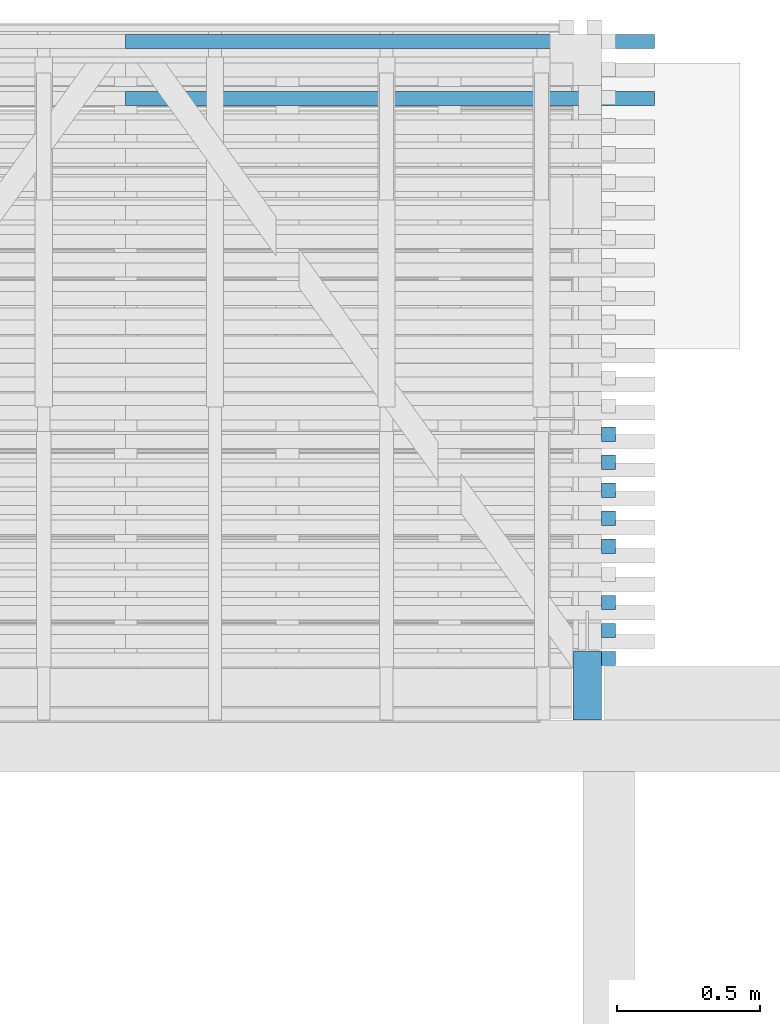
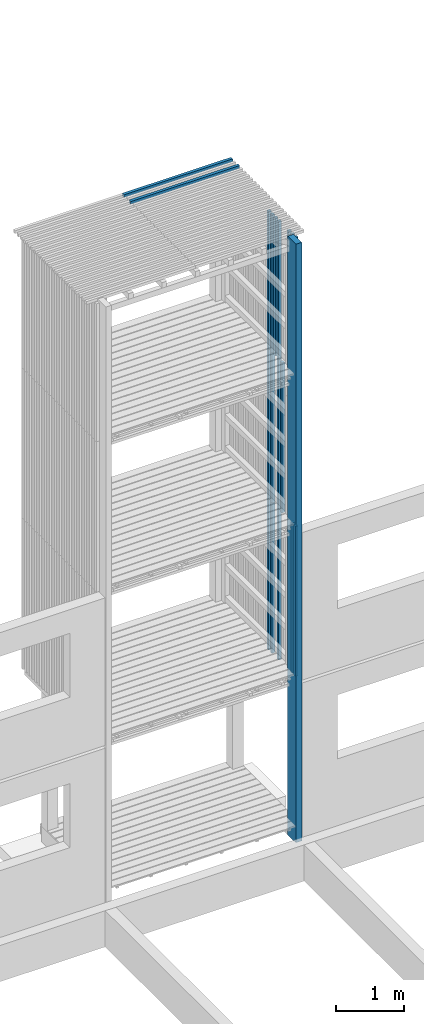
# One storey, part 52 of 182: 20 beams.
"""IFC2X3 building model written with IfcOpenShell, lengths in metres."""

from ifc_helpers import new_model, si_unit, frame, origin, place, context, project, spatial, faceted_brep, element, save


model = new_model("IFC2X3")

# Units and contexts
model_context = context("Model", 3, precision=1e-06, world=origin())
ifc_project = project(units=[si_unit("LENGTHUNIT", "METRE"), si_unit("PLANEANGLEUNIT", "RADIAN")], contexts=[model_context])

# Site, building, storey
site = spatial("IfcSite", under=ifc_project, CompositionType="ELEMENT")
building = spatial("IfcBuilding", under=site, CompositionType="ELEMENT")
storey = spatial("IfcBuildingStorey", under=building, Name="vs", CompositionType="ELEMENT", Elevation=-0.85)

# Beams
placement = place(None, origin())
beam_1_placement = place(placement, frame((16.67919731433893, 10.881441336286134, 2.575000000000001), z_axis=(-1.0, 0.0, 0.0), x_axis=(0.0, 0.0, 1.0)))
element("IfcBeam", 1, at=beam_1_placement, inside=storey, Name="Bardage", context=model_context, shape_type="Brep", body=[
    faceted_brep([(0.0, -0.024999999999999, 0.024999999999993), (0.0, 0.025000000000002, 0.024999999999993), (0.0, 0.025000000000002, -0.025000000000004), (0.0, -0.024999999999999, -0.025000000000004), (2.699961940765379, 0.025000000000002, -0.025000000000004), (2.699961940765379, 0.025000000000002, 0.024999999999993), (2.699961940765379, -0.024999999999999, 0.024999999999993), (2.699961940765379, -0.024999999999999, -0.025000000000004), (0.0, -0.024999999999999, -0.025000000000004), (0.0, 0.025000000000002, -0.025000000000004), (2.699961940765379, 0.025000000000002, -0.025000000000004), (2.699961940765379, -0.024999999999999, -0.025000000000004), (2.699961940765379, 0.025000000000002, -0.025000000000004), (0.0, 0.025000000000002, -0.025000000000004), (0.0, 0.025000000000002, 0.024999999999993), (2.699961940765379, 0.025000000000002, 0.024999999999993), (2.699961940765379, 0.025000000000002, 0.024999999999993), (0.0, 0.025000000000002, 0.024999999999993), (0.0, -0.024999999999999, 0.024999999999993), (2.699961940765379, -0.024999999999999, 0.024999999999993), (2.699961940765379, -0.024999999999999, 0.024999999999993), (0.0, -0.024999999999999, 0.024999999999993), (0.0, -0.024999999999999, -0.025000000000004), (2.699961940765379, -0.024999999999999, -0.025000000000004)], [[[0, 1, 2, 3]], [[4, 5, 6, 7]], [[8, 9, 10, 11]], [[12, 13, 14, 15]], [[16, 17, 18, 19]], [[20, 21, 22, 23]]]),
])
beam_2_placement = place(placement, frame((16.67919731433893, 10.881441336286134, 7.974999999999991), z_axis=(-1.0, 0.0, 0.0), x_axis=(0.0, 0.0, 1.0)))
element("IfcBeam", 2, at=beam_2_placement, inside=storey, Name="Bardage", context=model_context, shape_type="Brep", body=[
    faceted_brep([(2.479999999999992, -0.024999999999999, 0.024999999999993), (2.479999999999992, -0.024999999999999, -0.025000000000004), (2.479999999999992, 0.025000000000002, -0.025000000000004), (2.479999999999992, 0.025000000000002, 0.024999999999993), (0.0, 0.025000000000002, 0.024999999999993), (0.0, -0.024999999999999, 0.024999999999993), (2.479999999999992, -0.024999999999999, 0.024999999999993), (2.479999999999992, 0.025000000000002, 0.024999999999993), (0.0, -0.024999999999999, 0.024999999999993), (0.0, 0.025000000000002, 0.024999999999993), (0.0, 0.025000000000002, -0.025000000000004), (0.0, -0.024999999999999, -0.025000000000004), (0.0, 0.025000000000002, -0.025000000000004), (0.0, 0.025000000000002, 0.024999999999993), (2.479999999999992, 0.025000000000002, 0.024999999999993), (2.479999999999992, 0.025000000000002, -0.025000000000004), (0.0, -0.024999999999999, -0.025000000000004), (0.0, 0.025000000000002, -0.025000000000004), (2.479999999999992, 0.025000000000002, -0.025000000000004), (2.479999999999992, -0.024999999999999, -0.025000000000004), (2.479999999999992, -0.024999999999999, 0.024999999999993), (0.0, -0.024999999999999, 0.024999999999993), (0.0, -0.024999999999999, -0.025000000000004), (2.479999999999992, -0.024999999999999, -0.025000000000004)], [[[0, 1, 2, 3]], [[4, 5, 6, 7]], [[8, 9, 10, 11]], [[12, 13, 14, 15]], [[16, 17, 18, 19]], [[20, 21, 22, 23]]]),
])
beam_3_placement = place(placement, frame((16.67919731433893, 10.685077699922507, 2.575000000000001), z_axis=(-1.0, 0.0, 0.0), x_axis=(0.0, 0.0, 1.0)))
element("IfcBeam", 3, at=beam_3_placement, inside=storey, Name="Bardage", context=model_context, shape_type="Brep", body=[
    faceted_brep([(0.0, -0.025000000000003, 0.024999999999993), (0.0, 0.024999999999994, 0.024999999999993), (0.0, 0.024999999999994, -0.025000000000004), (0.0, -0.025000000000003, -0.025000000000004), (2.699961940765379, 0.024999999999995, -0.025000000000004), (2.699961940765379, 0.024999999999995, 0.024999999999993), (2.699961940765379, -0.025000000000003, 0.024999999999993), (2.699961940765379, -0.025000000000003, -0.025000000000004), (0.0, -0.025000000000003, -0.025000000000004), (0.0, 0.024999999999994, -0.025000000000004), (2.699961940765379, 0.024999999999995, -0.025000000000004), (2.699961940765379, -0.025000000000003, -0.025000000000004), (2.699961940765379, 0.024999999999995, -0.025000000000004), (0.0, 0.024999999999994, -0.025000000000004), (0.0, 0.024999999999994, 0.024999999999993), (2.699961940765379, 0.024999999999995, 0.024999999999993), (2.699961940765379, 0.024999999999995, 0.024999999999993), (0.0, 0.024999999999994, 0.024999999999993), (0.0, -0.025000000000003, 0.024999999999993), (2.699961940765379, -0.025000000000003, 0.024999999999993), (2.699961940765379, -0.025000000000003, 0.024999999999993), (0.0, -0.025000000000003, 0.024999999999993), (0.0, -0.025000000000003, -0.025000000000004), (2.699961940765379, -0.025000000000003, -0.025000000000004)], [[[0, 1, 2, 3]], [[4, 5, 6, 7]], [[8, 9, 10, 11]], [[12, 13, 14, 15]], [[16, 17, 18, 19]], [[20, 21, 22, 23]]]),
])
beam_4_placement = place(placement, frame((16.67919731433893, 11.175986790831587, 7.974999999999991), z_axis=(-1.0, 0.0, 0.0), x_axis=(0.0, 0.0, 1.0)))
element("IfcBeam", 4, at=beam_4_placement, inside=storey, Name="Bardage", context=model_context, shape_type="Brep", body=[
    faceted_brep([(2.479999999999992, -0.025000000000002, 0.024999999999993), (2.479999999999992, -0.025000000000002, -0.025000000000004), (2.479999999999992, 0.024999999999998, -0.025000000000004), (2.479999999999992, 0.024999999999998, 0.024999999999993), (0.0, 0.024999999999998, 0.024999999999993), (0.0, -0.025000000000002, 0.024999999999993), (2.479999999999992, -0.025000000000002, 0.024999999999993), (2.479999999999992, 0.024999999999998, 0.024999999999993), (0.0, -0.025000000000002, 0.024999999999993), (0.0, 0.024999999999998, 0.024999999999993), (0.0, 0.024999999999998, -0.025000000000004), (0.0, -0.025000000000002, -0.025000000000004), (0.0, 0.024999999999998, -0.025000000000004), (0.0, 0.024999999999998, 0.024999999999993), (2.479999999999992, 0.024999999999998, 0.024999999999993), (2.479999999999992, 0.024999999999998, -0.025000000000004), (0.0, -0.025000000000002, -0.025000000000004), (0.0, 0.024999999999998, -0.025000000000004), (2.479999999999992, 0.024999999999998, -0.025000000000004), (2.479999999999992, -0.025000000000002, -0.025000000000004), (2.479999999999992, -0.025000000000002, 0.024999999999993), (0.0, -0.025000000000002, 0.024999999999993), (0.0, -0.025000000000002, -0.025000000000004), (2.479999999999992, -0.025000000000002, -0.025000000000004)], [[[0, 1, 2, 3]], [[4, 5, 6, 7]], [[8, 9, 10, 11]], [[12, 13, 14, 15]], [[16, 17, 18, 19]], [[20, 21, 22, 23]]]),
])
beam_5_placement = place(placement, frame((16.67919731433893, 10.78325951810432, 7.974999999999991), z_axis=(-1.0, 0.0, 0.0), x_axis=(0.0, 0.0, 1.0)))
element("IfcBeam", 5, at=beam_5_placement, inside=storey, Name="Bardage", context=model_context, shape_type="Brep", body=[
    faceted_brep([(2.479999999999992, -0.025000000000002, 0.024999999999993), (2.479999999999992, -0.025000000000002, -0.025000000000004), (2.479999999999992, 0.024999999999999, -0.025000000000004), (2.479999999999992, 0.024999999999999, 0.024999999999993), (0.0, 0.024999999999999, 0.024999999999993), (0.0, -0.025000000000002, 0.024999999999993), (2.479999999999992, -0.025000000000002, 0.024999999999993), (2.479999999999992, 0.024999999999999, 0.024999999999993), (0.0, -0.025000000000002, 0.024999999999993), (0.0, 0.024999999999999, 0.024999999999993), (0.0, 0.024999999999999, -0.025000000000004), (0.0, -0.025000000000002, -0.025000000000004), (0.0, 0.024999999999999, -0.025000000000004), (0.0, 0.024999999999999, 0.024999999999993), (2.479999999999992, 0.024999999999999, 0.024999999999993), (2.479999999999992, 0.024999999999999, -0.025000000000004), (0.0, -0.025000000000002, -0.025000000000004), (0.0, 0.024999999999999, -0.025000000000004), (2.479999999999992, 0.024999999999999, -0.025000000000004), (2.479999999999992, -0.025000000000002, -0.025000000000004), (2.479999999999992, -0.025000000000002, 0.024999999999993), (0.0, -0.025000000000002, 0.024999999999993), (0.0, -0.025000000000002, -0.025000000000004), (2.479999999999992, -0.025000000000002, -0.025000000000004)], [[[0, 1, 2, 3]], [[4, 5, 6, 7]], [[8, 9, 10, 11]], [[12, 13, 14, 15]], [[16, 17, 18, 19]], [[20, 21, 22, 23]]]),
])
beam_6_placement = place(placement, frame((16.67919731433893, 11.37235042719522, 5.274999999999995), z_axis=(-1.0, 0.0, 0.0), x_axis=(0.0, 0.0, 1.0)))
element("IfcBeam", 6, at=beam_6_placement, inside=storey, Name="Bardage", context=model_context, shape_type="Brep", body=[
    faceted_brep([(1e-15, -0.024999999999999, 0.024999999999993), (1e-15, 0.024999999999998, 0.024999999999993), (1e-15, 0.024999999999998, -0.025000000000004), (1e-15, -0.024999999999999, -0.025000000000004), (2.699999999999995, -0.024999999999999, -0.025000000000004), (2.699999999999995, 0.024999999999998, -0.025000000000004), (2.699999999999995, 0.024999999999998, 0.024999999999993), (2.699999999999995, -0.024999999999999, 0.024999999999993), (1e-15, -0.024999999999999, 0.024999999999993), (1e-15, -0.024999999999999, -0.025000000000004), (2.699999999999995, -0.024999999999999, -0.025000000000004), (2.699999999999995, -0.024999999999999, 0.024999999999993), (2.699999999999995, -0.024999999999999, -0.025000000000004), (1e-15, -0.024999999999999, -0.025000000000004), (1e-15, 0.024999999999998, -0.025000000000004), (2.699999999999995, 0.024999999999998, -0.025000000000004), (2.699999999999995, 0.024999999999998, -0.025000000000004), (1e-15, 0.024999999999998, -0.025000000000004), (1e-15, 0.024999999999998, 0.024999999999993), (2.699999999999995, 0.024999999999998, 0.024999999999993), (2.699999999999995, 0.024999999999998, 0.024999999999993), (1e-15, 0.024999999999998, 0.024999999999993), (1e-15, -0.024999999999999, 0.024999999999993), (2.699999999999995, -0.024999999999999, 0.024999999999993)], [[[0, 1, 2, 3]], [[4, 5, 6, 7]], [[8, 9, 10, 11]], [[12, 13, 14, 15]], [[16, 17, 18, 19]], [[20, 21, 22, 23]]]),
])
beam_7_placement = place(placement, frame((16.67919731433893, 10.78325951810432, 2.575000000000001), z_axis=(-1.0, 0.0, 0.0), x_axis=(0.0, 0.0, 1.0)))
element("IfcBeam", 7, at=beam_7_placement, inside=storey, Name="Bardage", context=model_context, shape_type="Brep", body=[
    faceted_brep([(0.0, -0.025000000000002, 0.024999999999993), (0.0, 0.024999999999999, 0.024999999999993), (0.0, 0.024999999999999, -0.025000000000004), (0.0, -0.025000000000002, -0.025000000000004), (2.699961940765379, 0.024999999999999, -0.025000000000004), (2.699961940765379, 0.024999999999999, 0.024999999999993), (2.699961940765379, -0.025000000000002, 0.024999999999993), (2.699961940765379, -0.025000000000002, -0.025000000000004), (0.0, -0.025000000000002, -0.025000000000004), (0.0, 0.024999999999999, -0.025000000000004), (2.699961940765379, 0.024999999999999, -0.025000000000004), (2.699961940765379, -0.025000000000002, -0.025000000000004), (2.699961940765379, 0.024999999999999, -0.025000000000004), (0.0, 0.024999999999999, -0.025000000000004), (0.0, 0.024999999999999, 0.024999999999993), (2.699961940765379, 0.024999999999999, 0.024999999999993), (2.699961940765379, 0.024999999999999, 0.024999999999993), (0.0, 0.024999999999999, 0.024999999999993), (0.0, -0.025000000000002, 0.024999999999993), (2.699961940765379, -0.025000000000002, 0.024999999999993), (2.699961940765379, -0.025000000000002, 0.024999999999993), (0.0, -0.025000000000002, 0.024999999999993), (0.0, -0.025000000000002, -0.025000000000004), (2.699961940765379, -0.025000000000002, -0.025000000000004)], [[[0, 1, 2, 3]], [[4, 5, 6, 7]], [[8, 9, 10, 11]], [[12, 13, 14, 15]], [[16, 17, 18, 19]], [[20, 21, 22, 23]]]),
])
beam_8_placement = place(placement, frame((16.67919731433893, 11.37235042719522, 7.974999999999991), z_axis=(-1.0, 0.0, 0.0), x_axis=(0.0, 0.0, 1.0)))
element("IfcBeam", 8, at=beam_8_placement, inside=storey, Name="Bardage", context=model_context, shape_type="Brep", body=[
    faceted_brep([(2.479999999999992, -0.024999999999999, 0.024999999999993), (2.479999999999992, -0.024999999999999, -0.025000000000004), (2.479999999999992, 0.024999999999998, -0.025000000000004), (2.479999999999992, 0.024999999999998, 0.024999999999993), (0.0, 0.024999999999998, 0.024999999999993), (0.0, -0.024999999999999, 0.024999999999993), (2.479999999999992, -0.024999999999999, 0.024999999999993), (2.479999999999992, 0.024999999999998, 0.024999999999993), (0.0, -0.024999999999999, 0.024999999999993), (0.0, 0.024999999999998, 0.024999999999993), (0.0, 0.024999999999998, -0.025000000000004), (0.0, -0.024999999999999, -0.025000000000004), (0.0, 0.024999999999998, -0.025000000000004), (0.0, 0.024999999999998, 0.024999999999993), (2.479999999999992, 0.024999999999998, 0.024999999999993), (2.479999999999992, 0.024999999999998, -0.025000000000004), (0.0, -0.024999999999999, -0.025000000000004), (0.0, 0.024999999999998, -0.025000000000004), (2.479999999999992, 0.024999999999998, -0.025000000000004), (2.479999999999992, -0.024999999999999, -0.025000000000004), (2.479999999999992, -0.024999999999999, 0.024999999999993), (0.0, -0.024999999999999, 0.024999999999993), (0.0, -0.024999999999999, -0.025000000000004), (2.479999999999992, -0.024999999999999, -0.025000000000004)], [[[0, 1, 2, 3]], [[4, 5, 6, 7]], [[8, 9, 10, 11]], [[12, 13, 14, 15]], [[16, 17, 18, 19]], [[20, 21, 22, 23]]]),
])
beam_9_placement = place(placement, frame((16.67919731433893, 11.175986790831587, 2.575000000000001), z_axis=(-1.0, 0.0, 0.0), x_axis=(0.0, 0.0, 1.0)))
element("IfcBeam", 9, at=beam_9_placement, inside=storey, Name="Bardage", context=model_context, shape_type="Brep", body=[
    faceted_brep([(0.0, -0.025000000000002, 0.024999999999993), (0.0, 0.024999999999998, 0.024999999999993), (0.0, 0.024999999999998, -0.025000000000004), (0.0, -0.025000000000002, -0.025000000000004), (2.699961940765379, 0.025000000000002, -0.025000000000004), (2.699961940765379, 0.025000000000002, 0.024999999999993), (2.699961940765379, -0.025000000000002, 0.024999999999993), (2.699961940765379, -0.025000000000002, -0.025000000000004), (0.0, -0.025000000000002, -0.025000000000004), (0.0, 0.024999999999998, -0.025000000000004), (2.699961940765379, 0.025000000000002, -0.025000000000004), (2.699961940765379, -0.025000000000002, -0.025000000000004), (2.699961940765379, 0.025000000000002, -0.025000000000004), (0.0, 0.024999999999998, -0.025000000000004), (0.0, 0.024999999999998, 0.024999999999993), (2.699961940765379, 0.025000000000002, 0.024999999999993), (2.699961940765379, 0.025000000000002, 0.024999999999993), (0.0, 0.024999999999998, 0.024999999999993), (0.0, -0.025000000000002, 0.024999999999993), (2.699961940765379, -0.025000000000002, 0.024999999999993), (2.699961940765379, -0.025000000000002, 0.024999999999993), (0.0, -0.025000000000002, 0.024999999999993), (0.0, -0.025000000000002, -0.025000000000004), (2.699961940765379, -0.025000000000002, -0.025000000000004)], [[[0, 1, 2, 3]], [[4, 5, 6, 7]], [[8, 9, 10, 11]], [[12, 13, 14, 15]], [[16, 17, 18, 19]], [[20, 21, 22, 23]]]),
])
beam_10_placement = place(placement, frame((16.67919731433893, 11.274168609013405, 7.974999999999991), z_axis=(-1.0, 0.0, 0.0), x_axis=(0.0, 0.0, 1.0)))
element("IfcBeam", 10, at=beam_10_placement, inside=storey, Name="Bardage", context=model_context, shape_type="Brep", body=[
    faceted_brep([(2.479999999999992, -0.025000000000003, 0.024999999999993), (2.479999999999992, -0.025000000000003, -0.025000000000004), (2.479999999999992, 0.024999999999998, -0.025000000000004), (2.479999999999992, 0.024999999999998, 0.024999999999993), (0.0, 0.024999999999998, 0.024999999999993), (0.0, -0.025000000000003, 0.024999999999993), (2.479999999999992, -0.025000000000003, 0.024999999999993), (2.479999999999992, 0.024999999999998, 0.024999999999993), (0.0, -0.025000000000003, 0.024999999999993), (0.0, 0.024999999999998, 0.024999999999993), (0.0, 0.024999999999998, -0.025000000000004), (0.0, -0.025000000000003, -0.025000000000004), (0.0, 0.024999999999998, -0.025000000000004), (0.0, 0.024999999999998, 0.024999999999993), (2.479999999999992, 0.024999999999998, 0.024999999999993), (2.479999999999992, 0.024999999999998, -0.025000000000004), (0.0, -0.025000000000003, -0.025000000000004), (0.0, 0.024999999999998, -0.025000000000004), (2.479999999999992, 0.024999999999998, -0.025000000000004), (2.479999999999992, -0.025000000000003, -0.025000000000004), (2.479999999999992, -0.025000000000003, 0.024999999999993), (0.0, -0.025000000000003, 0.024999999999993), (0.0, -0.025000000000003, -0.025000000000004), (2.479999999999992, -0.025000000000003, -0.025000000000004)], [[[0, 1, 2, 3]], [[4, 5, 6, 7]], [[8, 9, 10, 11]], [[12, 13, 14, 15]], [[16, 17, 18, 19]], [[20, 21, 22, 23]]]),
])
beam_11_placement = place(placement, frame((16.67919731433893, 11.470532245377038, 5.274999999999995), z_axis=(-1.0, 0.0, 0.0), x_axis=(0.0, 0.0, 1.0)))
element("IfcBeam", 11, at=beam_11_placement, inside=storey, Name="Bardage", context=model_context, shape_type="Brep", body=[
    faceted_brep([(1e-15, -0.025000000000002, 0.024999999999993), (1e-15, 0.025000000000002, 0.024999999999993), (1e-15, 0.025000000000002, -0.025000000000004), (1e-15, -0.025000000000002, -0.025000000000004), (2.699999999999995, -0.025000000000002, -0.025000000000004), (2.699999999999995, 0.025000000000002, -0.025000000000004), (2.699999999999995, 0.025000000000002, 0.024999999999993), (2.699999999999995, -0.025000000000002, 0.024999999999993), (1e-15, -0.025000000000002, 0.024999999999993), (1e-15, -0.025000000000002, -0.025000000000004), (2.699999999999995, -0.025000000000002, -0.025000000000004), (2.699999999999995, -0.025000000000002, 0.024999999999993), (2.699999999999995, -0.025000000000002, -0.025000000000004), (1e-15, -0.025000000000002, -0.025000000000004), (1e-15, 0.025000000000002, -0.025000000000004), (2.699999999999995, 0.025000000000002, -0.025000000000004), (2.699999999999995, 0.025000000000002, -0.025000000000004), (1e-15, 0.025000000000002, -0.025000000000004), (1e-15, 0.025000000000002, 0.024999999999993), (2.699999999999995, 0.025000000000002, 0.024999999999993), (2.699999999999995, 0.025000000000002, 0.024999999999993), (1e-15, 0.025000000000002, 0.024999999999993), (1e-15, -0.025000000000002, 0.024999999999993), (2.699999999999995, -0.025000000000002, 0.024999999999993)], [[[0, 1, 2, 3]], [[4, 5, 6, 7]], [[8, 9, 10, 11]], [[12, 13, 14, 15]], [[16, 17, 18, 19]], [[20, 21, 22, 23]]]),
])
beam_12_placement = place(placement, frame((16.67919731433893, 11.07780497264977, 5.274999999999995), z_axis=(-1.0, 0.0, 0.0), x_axis=(0.0, 0.0, 1.0)))
element("IfcBeam", 12, at=beam_12_placement, inside=storey, Name="Bardage", context=model_context, shape_type="Brep", body=[
    faceted_brep([(1e-15, -0.024999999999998, 0.024999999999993), (1e-15, 0.024999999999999, 0.024999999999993), (1e-15, 0.024999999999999, -0.025000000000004), (1e-15, -0.024999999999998, -0.025000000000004), (2.699999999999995, -0.024999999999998, -0.025000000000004), (2.699999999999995, 0.024999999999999, -0.025000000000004), (2.699999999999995, 0.024999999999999, 0.024999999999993), (2.699999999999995, -0.024999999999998, 0.024999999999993), (1e-15, -0.024999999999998, 0.024999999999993), (1e-15, -0.024999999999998, -0.025000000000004), (2.699999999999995, -0.024999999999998, -0.025000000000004), (2.699999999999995, -0.024999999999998, 0.024999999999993), (2.699999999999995, -0.024999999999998, -0.025000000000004), (1e-15, -0.024999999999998, -0.025000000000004), (1e-15, 0.024999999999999, -0.025000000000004), (2.699999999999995, 0.024999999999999, -0.025000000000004), (2.699999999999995, 0.024999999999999, -0.025000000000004), (1e-15, 0.024999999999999, -0.025000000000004), (1e-15, 0.024999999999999, 0.024999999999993), (2.699999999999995, 0.024999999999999, 0.024999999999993), (2.699999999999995, 0.024999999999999, 0.024999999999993), (1e-15, 0.024999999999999, 0.024999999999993), (1e-15, -0.024999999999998, 0.024999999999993), (2.699999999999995, -0.024999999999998, 0.024999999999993)], [[[0, 1, 2, 3]], [[4, 5, 6, 7]], [[8, 9, 10, 11]], [[12, 13, 14, 15]], [[16, 17, 18, 19]], [[20, 21, 22, 23]]]),
])
beam_13_placement = place(placement, frame((16.67919731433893, 11.175986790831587, 5.274999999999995), z_axis=(-1.0, 0.0, 0.0), x_axis=(0.0, 0.0, 1.0)))
element("IfcBeam", 13, at=beam_13_placement, inside=storey, Name="Bardage", context=model_context, shape_type="Brep", body=[
    faceted_brep([(1e-15, -0.025000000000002, 0.024999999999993), (1e-15, 0.024999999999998, 0.024999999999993), (1e-15, 0.024999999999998, -0.025000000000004), (1e-15, -0.025000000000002, -0.025000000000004), (2.699999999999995, -0.025000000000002, -0.025000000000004), (2.699999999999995, 0.024999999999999, -0.025000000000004), (2.699999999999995, 0.024999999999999, 0.024999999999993), (2.699999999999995, -0.025000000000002, 0.024999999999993), (1e-15, -0.025000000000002, 0.024999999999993), (1e-15, -0.025000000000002, -0.025000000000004), (2.699999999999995, -0.025000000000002, -0.025000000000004), (2.699999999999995, -0.025000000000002, 0.024999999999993), (2.699999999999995, -0.025000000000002, -0.025000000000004), (1e-15, -0.025000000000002, -0.025000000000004), (1e-15, 0.024999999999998, -0.025000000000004), (2.699999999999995, 0.024999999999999, -0.025000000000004), (2.699999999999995, 0.024999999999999, -0.025000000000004), (1e-15, 0.024999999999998, -0.025000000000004), (1e-15, 0.024999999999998, 0.024999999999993), (2.699999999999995, 0.024999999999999, 0.024999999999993), (2.699999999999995, 0.024999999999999, 0.024999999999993), (1e-15, 0.024999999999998, 0.024999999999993), (1e-15, -0.025000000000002, 0.024999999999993), (2.699999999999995, -0.025000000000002, 0.024999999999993)], [[[0, 1, 2, 3]], [[4, 5, 6, 7]], [[8, 9, 10, 11]], [[12, 13, 14, 15]], [[16, 17, 18, 19]], [[20, 21, 22, 23]]]),
])
beam_14_placement = place(placement, frame((16.67919731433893, 11.37235042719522, 2.575000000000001), z_axis=(-1.0, 0.0, 0.0), x_axis=(0.0, 0.0, 1.0)))
element("IfcBeam", 14, at=beam_14_placement, inside=storey, Name="Bardage", context=model_context, shape_type="Brep", body=[
    faceted_brep([(0.0, -0.024999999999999, 0.024999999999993), (0.0, 0.024999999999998, 0.024999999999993), (0.0, 0.024999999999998, -0.025000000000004), (0.0, -0.024999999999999, -0.025000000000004), (2.699961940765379, 0.025000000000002, -0.025000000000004), (2.699961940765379, 0.025000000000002, 0.024999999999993), (2.699961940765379, -0.024999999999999, 0.024999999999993), (2.699961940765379, -0.024999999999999, -0.025000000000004), (0.0, -0.024999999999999, -0.025000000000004), (0.0, 0.024999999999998, -0.025000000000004), (2.699961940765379, 0.025000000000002, -0.025000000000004), (2.699961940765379, -0.024999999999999, -0.025000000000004), (2.699961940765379, 0.025000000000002, -0.025000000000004), (0.0, 0.024999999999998, -0.025000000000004), (0.0, 0.024999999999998, 0.024999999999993), (2.699961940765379, 0.025000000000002, 0.024999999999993), (2.699961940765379, 0.025000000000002, 0.024999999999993), (0.0, 0.024999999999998, 0.024999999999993), (0.0, -0.024999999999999, 0.024999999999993), (2.699961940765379, -0.024999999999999, 0.024999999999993), (2.699961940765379, -0.024999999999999, 0.024999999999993), (0.0, -0.024999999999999, 0.024999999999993), (0.0, -0.024999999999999, -0.025000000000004), (2.699961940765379, -0.024999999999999, -0.025000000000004)], [[[0, 1, 2, 3]], [[4, 5, 6, 7]], [[8, 9, 10, 11]], [[12, 13, 14, 15]], [[16, 17, 18, 19]], [[20, 21, 22, 23]]]),
])
beam_15_placement = place(placement, frame((16.67919731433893, 11.470532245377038, 7.974999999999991), z_axis=(-1.0, 0.0, 0.0), x_axis=(0.0, 0.0, 1.0)))
element("IfcBeam", 15, at=beam_15_placement, inside=storey, Name="Bardage", context=model_context, shape_type="Brep", body=[
    faceted_brep([(2.479999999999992, -0.025000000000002, 0.024999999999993), (2.479999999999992, -0.025000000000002, -0.025000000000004), (2.479999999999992, 0.025000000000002, -0.025000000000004), (2.479999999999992, 0.025000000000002, 0.024999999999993), (0.0, 0.025000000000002, 0.024999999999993), (0.0, -0.025000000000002, 0.024999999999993), (2.479999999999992, -0.025000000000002, 0.024999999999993), (2.479999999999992, 0.025000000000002, 0.024999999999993), (0.0, -0.025000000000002, 0.024999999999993), (0.0, 0.025000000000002, 0.024999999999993), (0.0, 0.025000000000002, -0.025000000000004), (0.0, -0.025000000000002, -0.025000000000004), (0.0, 0.025000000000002, -0.025000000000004), (0.0, 0.025000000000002, 0.024999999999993), (2.479999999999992, 0.025000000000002, 0.024999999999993), (2.479999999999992, 0.025000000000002, -0.025000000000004), (0.0, -0.025000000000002, -0.025000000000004), (0.0, 0.025000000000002, -0.025000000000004), (2.479999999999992, 0.025000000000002, -0.025000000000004), (2.479999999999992, -0.025000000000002, -0.025000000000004), (2.479999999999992, -0.025000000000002, 0.024999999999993), (0.0, -0.025000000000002, 0.024999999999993), (0.0, -0.025000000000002, -0.025000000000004), (2.479999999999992, -0.025000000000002, -0.025000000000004)], [[[0, 1, 2, 3]], [[4, 5, 6, 7]], [[8, 9, 10, 11]], [[12, 13, 14, 15]], [[16, 17, 18, 19]], [[20, 21, 22, 23]]]),
])
beam_16_placement = place(placement, frame((16.67919731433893, 11.470532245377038, 2.575000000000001), z_axis=(-1.0, 0.0, 0.0), x_axis=(0.0, 0.0, 1.0)))
element("IfcBeam", 16, at=beam_16_placement, inside=storey, Name="Bardage", context=model_context, shape_type="Brep", body=[
    faceted_brep([(0.0, -0.025000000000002, 0.024999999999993), (0.0, 0.025000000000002, 0.024999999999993), (0.0, 0.025000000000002, -0.025000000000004), (0.0, -0.025000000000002, -0.025000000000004), (2.699961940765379, 0.025000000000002, -0.025000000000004), (2.699961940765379, 0.025000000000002, 0.024999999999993), (2.699961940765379, -0.025000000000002, 0.024999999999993), (2.699961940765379, -0.025000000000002, -0.025000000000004), (0.0, -0.025000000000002, -0.025000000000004), (0.0, 0.025000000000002, -0.025000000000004), (2.699961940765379, 0.025000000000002, -0.025000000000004), (2.699961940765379, -0.025000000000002, -0.025000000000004), (2.699961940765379, 0.025000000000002, -0.025000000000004), (0.0, 0.025000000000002, -0.025000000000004), (0.0, 0.025000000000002, 0.024999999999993), (2.699961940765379, 0.025000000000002, 0.024999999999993), (2.699961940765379, 0.025000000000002, 0.024999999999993), (0.0, 0.025000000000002, 0.024999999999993), (0.0, -0.025000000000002, 0.024999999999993), (2.699961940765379, -0.025000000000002, 0.024999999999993), (2.699961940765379, -0.025000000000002, 0.024999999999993), (0.0, -0.025000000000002, 0.024999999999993), (0.0, -0.025000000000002, -0.025000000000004), (2.699961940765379, -0.025000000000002, -0.025000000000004)], [[[0, 1, 2, 3]], [[4, 5, 6, 7]], [[8, 9, 10, 11]], [[12, 13, 14, 15]], [[16, 17, 18, 19]], [[20, 21, 22, 23]]]),
])
beam_17_placement = place(placement, frame((16.67919731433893, 10.685077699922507, 7.974999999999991), z_axis=(-1.0, 0.0, 0.0), x_axis=(0.0, 0.0, 1.0)))
element("IfcBeam", 17, at=beam_17_placement, inside=storey, Name="Bardage", context=model_context, shape_type="Brep", body=[
    faceted_brep([(2.479999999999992, -0.025000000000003, 0.024999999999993), (2.479999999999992, -0.025000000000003, -0.025000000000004), (2.479999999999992, 0.024999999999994, -0.025000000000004), (2.479999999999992, 0.024999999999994, 0.024999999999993), (0.0, 0.024999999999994, 0.024999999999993), (0.0, -0.025000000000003, 0.024999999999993), (2.479999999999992, -0.025000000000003, 0.024999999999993), (2.479999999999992, 0.024999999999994, 0.024999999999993), (0.0, -0.025000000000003, 0.024999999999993), (0.0, 0.024999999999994, 0.024999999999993), (0.0, 0.024999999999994, -0.025000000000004), (0.0, -0.025000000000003, -0.025000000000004), (0.0, 0.024999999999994, -0.025000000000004), (0.0, 0.024999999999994, 0.024999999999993), (2.479999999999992, 0.024999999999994, 0.024999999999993), (2.479999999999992, 0.024999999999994, -0.025000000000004), (0.0, -0.025000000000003, -0.025000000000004), (0.0, 0.024999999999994, -0.025000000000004), (2.479999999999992, 0.024999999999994, -0.025000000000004), (2.479999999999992, -0.025000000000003, -0.025000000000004), (2.479999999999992, -0.025000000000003, 0.024999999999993), (0.0, -0.025000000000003, 0.024999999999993), (0.0, -0.025000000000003, -0.025000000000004), (2.479999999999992, -0.025000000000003, -0.025000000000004)], [[[0, 1, 2, 3]], [[4, 5, 6, 7]], [[8, 9, 10, 11]], [[12, 13, 14, 15]], [[16, 17, 18, 19]], [[20, 21, 22, 23]]]),
])
beam_18_placement = place(placement, frame((16.60419731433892, 10.590077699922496, 10.494999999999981), z_axis=(0.0, 1.0, 0.0), x_axis=(0.0, 0.0, -1.0)))
element("IfcBeam", 18, at=beam_18_placement, inside=storey, Name="Poteau", context=model_context, shape_type="Brep", body=[
    faceted_brep([(0.0, -0.050000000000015, -0.120000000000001), (10.754999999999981, -0.050000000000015, -0.120000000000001), (10.754999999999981, -0.050000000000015, 0.120000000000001), (0.0, -0.050000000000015, 0.120000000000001), (0.0, 0.049999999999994, -0.120000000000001), (10.754999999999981, 0.049999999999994, -0.120000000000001), (10.754999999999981, -0.050000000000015, -0.120000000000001), (0.0, -0.050000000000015, -0.120000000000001), (10.754999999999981, -0.050000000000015, 0.120000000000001), (10.754999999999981, -0.050000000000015, -0.120000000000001), (10.754999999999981, 0.049999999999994, -0.120000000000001), (10.754999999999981, 0.049999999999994, 0.120000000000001), (0.0, -0.050000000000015, 0.120000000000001), (10.754999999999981, -0.050000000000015, 0.120000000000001), (10.754999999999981, 0.049999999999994, 0.120000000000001), (0.0, 0.049999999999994, 0.120000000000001), (0.0, 0.049999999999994, 0.120000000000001), (10.754999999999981, 0.049999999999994, 0.120000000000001), (10.754999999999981, 0.049999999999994, -0.120000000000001), (0.0, 0.049999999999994, -0.120000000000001), (0.0, 0.049999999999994, 0.120000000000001), (0.0, 0.049999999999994, -0.120000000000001), (0.0, -0.050000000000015, -0.120000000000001), (0.0, -0.050000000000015, 0.120000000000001)], [[[0, 1, 2, 3]], [[4, 5, 6, 7]], [[8, 9, 10, 11]], [[12, 13, 14, 15]], [[16, 17, 18, 19]], [[20, 21, 22, 23]]]),
])
beam_19_placement = place(placement, frame((16.839197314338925, 12.845077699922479, 10.47999999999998), z_axis=(0.0, 0.0, 1.0), x_axis=(-1.0, 0.0, 0.0)))
element("IfcBeam", 19, at=beam_19_placement, inside=storey, Name="Bardage", context=model_context, shape_type="Brep", body=[
    faceted_brep([(-3e-15, 0.025000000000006, 0.025000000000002), (-3e-15, -0.024999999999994, 0.025000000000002), (1.849999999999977, -0.024999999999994, 0.025000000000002), (1.849999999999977, 0.025000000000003, 0.025000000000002), (1.849999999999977, -0.024999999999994, 0.025000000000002), (-3e-15, -0.024999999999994, 0.025000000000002), (-3e-15, -0.024999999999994, -0.024999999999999), (1.849999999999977, -0.024999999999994, -0.024999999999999), (-3e-15, -0.024999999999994, 0.025000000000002), (-3e-15, 0.025000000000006, 0.025000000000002), (-3e-15, 0.025000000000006, -0.024999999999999), (-3e-15, -0.024999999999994, -0.024999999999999), (-3e-15, 0.025000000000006, -0.024999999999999), (-3e-15, 0.025000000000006, 0.025000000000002), (1.849999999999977, 0.025000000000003, 0.025000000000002), (1.849999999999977, 0.025000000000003, -0.024999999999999), (1.849999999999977, -0.024999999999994, -0.024999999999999), (-3e-15, -0.024999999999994, -0.024999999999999), (-3e-15, 0.025000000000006, -0.024999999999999), (1.849999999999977, 0.025000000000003, -0.024999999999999), (1.849999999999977, -0.024999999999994, 0.025000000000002), (1.849999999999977, -0.024999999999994, -0.024999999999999), (1.849999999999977, 0.025000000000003, -0.024999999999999), (1.849999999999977, 0.025000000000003, 0.025000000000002)], [[[0, 1, 2, 3]], [[4, 5, 6, 7]], [[8, 9, 10, 11]], [[12, 13, 14, 15]], [[16, 17, 18, 19]], [[20, 21, 22, 23]]]),
])
beam_20_placement = place(placement, frame((16.839197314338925, 12.645077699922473, 10.47999999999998), z_axis=(0.0, 0.0, 1.0), x_axis=(-1.0, 0.0, 0.0)))
element("IfcBeam", 20, at=beam_20_placement, inside=storey, Name="Bardage", context=model_context, shape_type="Brep", body=[
    faceted_brep([(-3e-15, 0.024999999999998, 0.025000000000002), (-3e-15, -0.025000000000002, 0.025000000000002), (1.849999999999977, -0.025000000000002, 0.025000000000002), (1.849999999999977, 0.024999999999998, 0.025000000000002), (1.849999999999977, -0.025000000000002, 0.025000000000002), (-3e-15, -0.025000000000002, 0.025000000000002), (-3e-15, -0.025000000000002, -0.024999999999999), (1.849999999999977, -0.025000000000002, -0.024999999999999), (-3e-15, -0.025000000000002, 0.025000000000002), (-3e-15, 0.024999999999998, 0.025000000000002), (-3e-15, 0.024999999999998, -0.024999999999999), (-3e-15, -0.025000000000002, -0.024999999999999), (-3e-15, 0.024999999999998, -0.024999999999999), (-3e-15, 0.024999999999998, 0.025000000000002), (1.849999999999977, 0.024999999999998, 0.025000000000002), (1.849999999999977, 0.024999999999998, -0.024999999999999), (1.849999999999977, -0.025000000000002, -0.024999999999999), (-3e-15, -0.025000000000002, -0.024999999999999), (-3e-15, 0.024999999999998, -0.024999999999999), (1.849999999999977, 0.024999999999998, -0.024999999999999), (1.849999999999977, -0.025000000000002, 0.025000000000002), (1.849999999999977, -0.025000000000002, -0.024999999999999), (1.849999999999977, 0.024999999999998, -0.024999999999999), (1.849999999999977, 0.024999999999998, 0.025000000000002)], [[[0, 1, 2, 3]], [[4, 5, 6, 7]], [[8, 9, 10, 11]], [[12, 13, 14, 15]], [[16, 17, 18, 19]], [[20, 21, 22, 23]]]),
])

save(model, "model.ifc")
